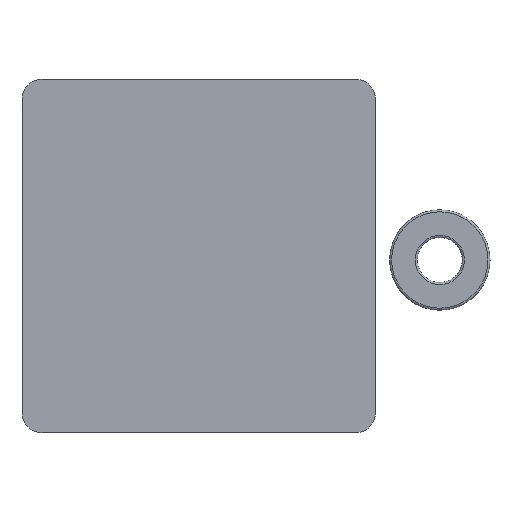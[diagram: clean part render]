
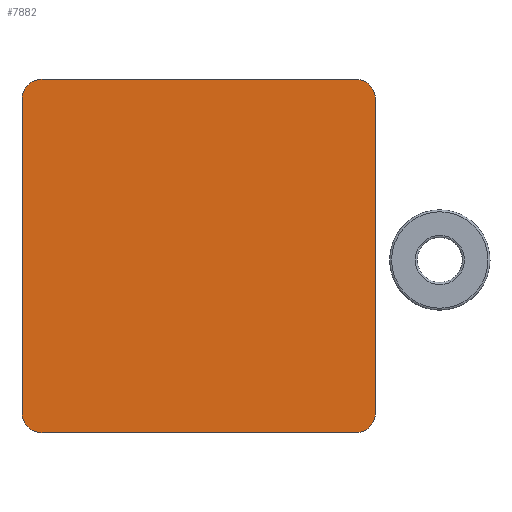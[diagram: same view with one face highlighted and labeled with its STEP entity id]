
A CAD part, front view. The second image highlights one B-rep face of the part: STEP entity #7882.
In plain terms, the highlighted planar face has unit normal (0, -1, 0).
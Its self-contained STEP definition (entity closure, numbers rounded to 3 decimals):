
#279=PLANE('',#8524);
#463=FACE_OUTER_BOUND('',#1015,.T.);
#1015=EDGE_LOOP('',(#5446,#5447,#5448,#5449,#5450,#5451,#5452,#5453));
#1645=LINE('',#12764,#2266);
#1648=LINE('',#12770,#2269);
#1649=LINE('',#12774,#2270);
#1650=LINE('',#12778,#2271);
#2266=VECTOR('',#9896,10.);
#2269=VECTOR('',#9901,10.);
#2270=VECTOR('',#9904,10.);
#2271=VECTOR('',#9907,10.);
#2830=CIRCLE('',#8522,10.);
#2831=CIRCLE('',#8525,10.);
#2832=CIRCLE('',#8526,10.);
#2833=CIRCLE('',#8527,10.);
#3421=VERTEX_POINT('',#12757);
#3422=VERTEX_POINT('',#12759);
#3423=VERTEX_POINT('',#12763);
#3425=VERTEX_POINT('',#12769);
#3426=VERTEX_POINT('',#12771);
#3427=VERTEX_POINT('',#12773);
#3428=VERTEX_POINT('',#12775);
#3429=VERTEX_POINT('',#12777);
#4150=EDGE_CURVE('',#3421,#3422,#2830,.T.);
#4152=EDGE_CURVE('',#3423,#3422,#1645,.T.);
#4155=EDGE_CURVE('',#3421,#3425,#1648,.T.);
#4156=EDGE_CURVE('',#3426,#3425,#2831,.T.);
#4157=EDGE_CURVE('',#3426,#3427,#1649,.T.);
#4158=EDGE_CURVE('',#3428,#3427,#2832,.T.);
#4159=EDGE_CURVE('',#3428,#3429,#1650,.T.);
#4160=EDGE_CURVE('',#3423,#3429,#2833,.T.);
#5446=ORIENTED_EDGE('',*,*,#4150,.F.);
#5447=ORIENTED_EDGE('',*,*,#4155,.T.);
#5448=ORIENTED_EDGE('',*,*,#4156,.F.);
#5449=ORIENTED_EDGE('',*,*,#4157,.T.);
#5450=ORIENTED_EDGE('',*,*,#4158,.F.);
#5451=ORIENTED_EDGE('',*,*,#4159,.T.);
#5452=ORIENTED_EDGE('',*,*,#4160,.F.);
#5453=ORIENTED_EDGE('',*,*,#4152,.T.);
#7882=ADVANCED_FACE('',(#463),#279,.T.);
#8522=AXIS2_PLACEMENT_3D('',#12760,#9891,#9892);
#8524=AXIS2_PLACEMENT_3D('',#12768,#9899,#9900);
#8525=AXIS2_PLACEMENT_3D('',#12772,#9902,#9903);
#8526=AXIS2_PLACEMENT_3D('',#12776,#9905,#9906);
#8527=AXIS2_PLACEMENT_3D('',#12779,#9908,#9909);
#9891=DIRECTION('center_axis',(0.,1.,0.));
#9892=DIRECTION('ref_axis',(0.707,0.,-0.707));
#9896=DIRECTION('',(1.,0.,0.));
#9899=DIRECTION('center_axis',(0.,-1.,0.));
#9900=DIRECTION('ref_axis',(0.,0.,-1.));
#9901=DIRECTION('',(0.,0.,1.));
#9902=DIRECTION('center_axis',(0.,1.,0.));
#9903=DIRECTION('ref_axis',(0.707,0.,0.707));
#9904=DIRECTION('',(-1.,0.,0.));
#9905=DIRECTION('center_axis',(0.,1.,0.));
#9906=DIRECTION('ref_axis',(-0.707,0.,0.707));
#9907=DIRECTION('',(0.,0.,-1.));
#9908=DIRECTION('center_axis',(0.,1.,0.));
#9909=DIRECTION('ref_axis',(-0.707,0.,-0.707));
#12757=CARTESIAN_POINT('',(54.,-3.,-24.));
#12759=CARTESIAN_POINT('',(44.,-3.,-34.));
#12760=CARTESIAN_POINT('Origin',(44.,-3.,-24.));
#12763=CARTESIAN_POINT('',(-112.,-3.,-34.));
#12764=CARTESIAN_POINT('',(-122.,-3.,-34.));
#12768=CARTESIAN_POINT('Origin',(-34.,-3.,54.));
#12769=CARTESIAN_POINT('',(54.,-3.,132.));
#12770=CARTESIAN_POINT('',(54.,-3.,-34.));
#12771=CARTESIAN_POINT('',(44.,-3.,142.));
#12772=CARTESIAN_POINT('Origin',(44.,-3.,132.));
#12773=CARTESIAN_POINT('',(-112.,-3.,142.));
#12774=CARTESIAN_POINT('',(54.,-3.,142.));
#12775=CARTESIAN_POINT('',(-122.,-3.,132.));
#12776=CARTESIAN_POINT('Origin',(-112.,-3.,132.));
#12777=CARTESIAN_POINT('',(-122.,-3.,-24.));
#12778=CARTESIAN_POINT('',(-122.,-3.,142.));
#12779=CARTESIAN_POINT('Origin',(-112.,-3.,-24.));
